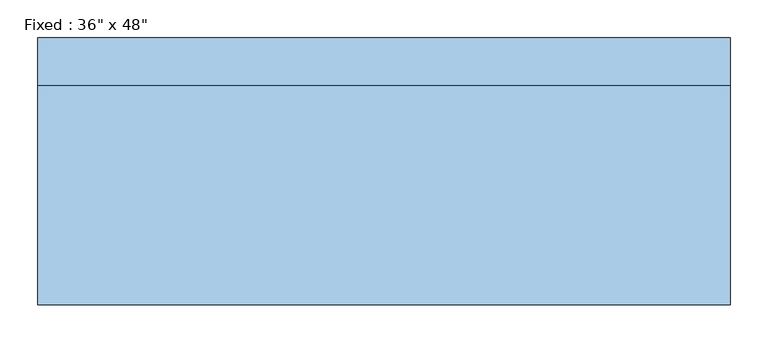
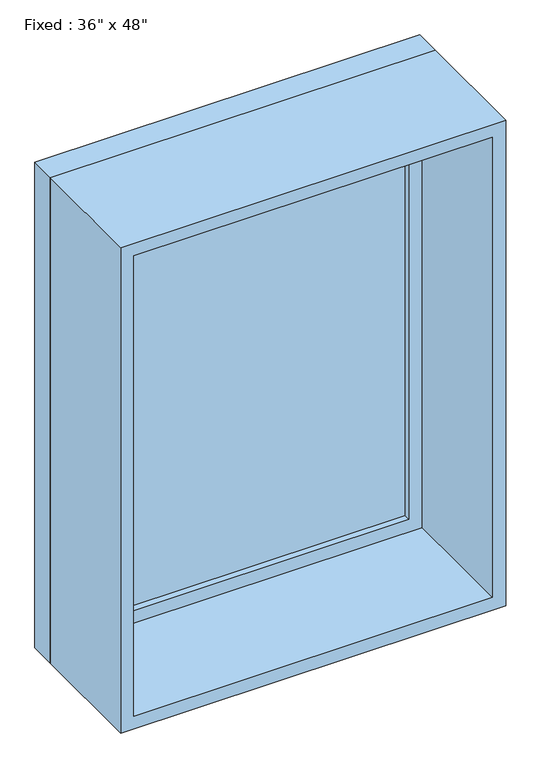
"""IFC4 building model written with IfcOpenShell, lengths in millimetres: window geometry."""

from ifc_helpers import new_model, si_unit, frame, origin, place, context, project, spatial, polyline, outline, extrude, source, transform, mapped, element, save


def window_15c49d37(model_context):
    return source(origin(), model_context, "Body", "SweptSolid", [
        extrude(outline(polyline([(355.6, 128.5875), (-431.8, 128.5875), (-431.8, 141.2875), (355.6, 141.2875), (355.6, 128.5875)])), frame((0.0, 0.0, 977.9), z_axis=(0.0, 0.0, 1.0), x_axis=(1.0, 0.0, 0.0)), (0.0, 0.0, 1.0), 1092.2),
        extrude(outline(polyline([(2114.55, -476.25), (933.45, -476.25), (933.45, 400.05), (2114.55, 400.05), (2114.55, -476.25)]), holes=[polyline([(2070.1, -431.8), (2070.1, 355.6), (977.9, 355.6), (977.9, -431.8), (2070.1, -431.8)])]), frame((0.0, 112.7125, 0.0), z_axis=(0.0, 1.0, 0.0), x_axis=(0.0, 0.0, 1.0)), (0.0, 0.0, 1.0), 44.45),
        extrude(outline(polyline([(2133.6, -495.3), (914.4, -495.3), (914.4, 419.1), (2133.6, 419.1), (2133.6, -495.3)]), holes=[polyline([(2101.85, -463.55), (2101.85, 387.35), (946.15, 387.35), (946.15, -463.55), (2101.85, -463.55)])]), frame((0.0, -176.2125, 0.0), z_axis=(0.0, 1.0, 0.0), x_axis=(0.0, 0.0, 1.0)), (0.0, 0.0, 1.0), 288.925),
        extrude(outline(polyline([(2133.6, 419.1), (2133.6, -495.3), (914.4, -495.3), (914.4, 419.1), (2133.6, 419.1)]), holes=[polyline([(2114.55, 400.05), (933.45, 400.05), (933.45, -476.25), (2114.55, -476.25), (2114.55, 400.05)])]), frame((0.0, 112.7125, 0.0), z_axis=(0.0, 1.0, 0.0), x_axis=(0.0, 0.0, 1.0)), (0.0, 0.0, 1.0), 63.5),
    ])


if __name__ == "__main__":
    model = new_model("IFC4")
    model_context = context("Model", 3, world=origin())
    ifc_project = project(units=[si_unit("LENGTHUNIT", "METRE", prefix="MILLI")], contexts=[model_context])
    site = spatial("IfcSite", under=ifc_project)
    building = spatial("IfcBuilding", under=site)
    placement = place(None, origin())
    window_shape = window_15c49d37(model_context)
    element("IfcWindow", 1, ObjectType="Fixed : 36\" x 48\"", at=placement, inside=building, context=model_context, shape_type="MappedRepresentation", body=[
        mapped(window_shape, transform((0.0, 0.0, 0.0), x_axis=(1.0, 0.0, 0.0), y_axis=(0.0, 1.0, 0.0), z_axis=(0.0, 0.0, 1.0))),
    ])
    save(model, "model.ifc")
